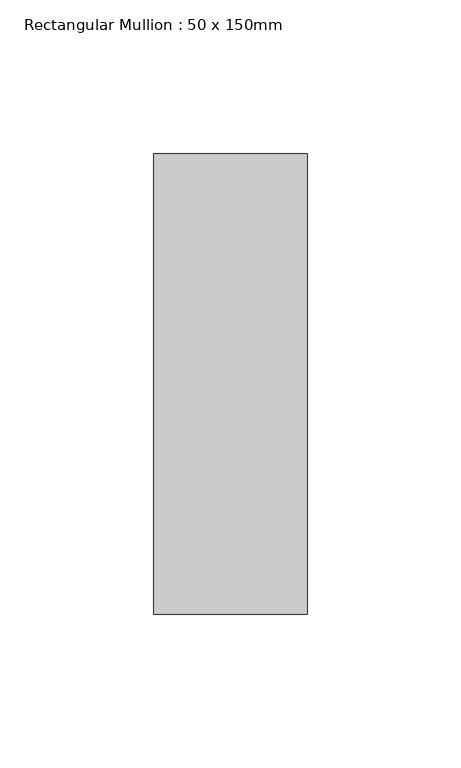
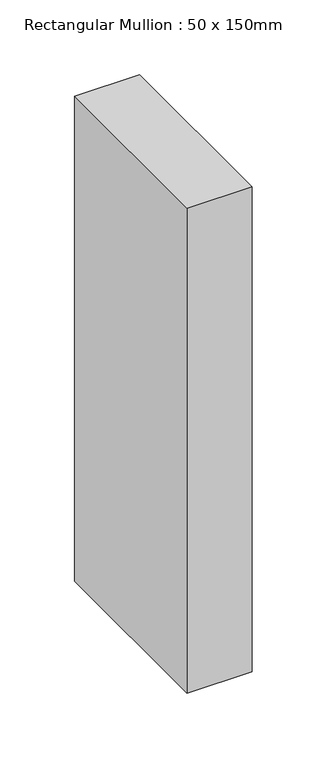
"""IFC4 building model written with IfcOpenShell, lengths in millimetres: member geometry, Rectangular Mullion : 50 x 150mm."""

from ifc_helpers import new_model, si_unit, frame, origin, place, context, project, spatial, polyline, outline, extrude, source, transform, mapped, element, save


def rectangular_mullion_50_x_150mm_7b680336(model_context):
    return source(origin(), model_context, "Body", "SweptSolid", [
        extrude(outline(polyline([(25.0, 75.0), (25.0, -75.0), (-25.0, -75.0), (-25.0, 75.0), (25.0, 75.0)])), frame((0.0, 0.0, -394.7425895), z_axis=(0.0, 0.0, 1.0), x_axis=(1.0, 0.0, 0.0)), (0.0, 0.0, 1.0), 394.7425895),
    ])


if __name__ == "__main__":
    model = new_model("IFC4")
    model_context = context("Model", 3, world=origin())
    ifc_project = project(units=[si_unit("LENGTHUNIT", "METRE", prefix="MILLI")], contexts=[model_context])
    site = spatial("IfcSite", under=ifc_project)
    building = spatial("IfcBuilding", under=site)
    placement = place(None, origin())
    rectangular_mullion_50_x_150mm_shape = rectangular_mullion_50_x_150mm_7b680336(model_context)
    element("IfcMember", 1, ObjectType="Rectangular Mullion : 50 x 150mm", at=placement, inside=building, context=model_context, shape_type="MappedRepresentation", body=[
        mapped(rectangular_mullion_50_x_150mm_shape, transform((0.0, 0.0, 0.0), x_axis=(1.0, 0.0, 0.0), y_axis=(0.0, 1.0, 0.0), z_axis=(0.0, 0.0, 1.0))),
    ])
    save(model, "model.ifc")
